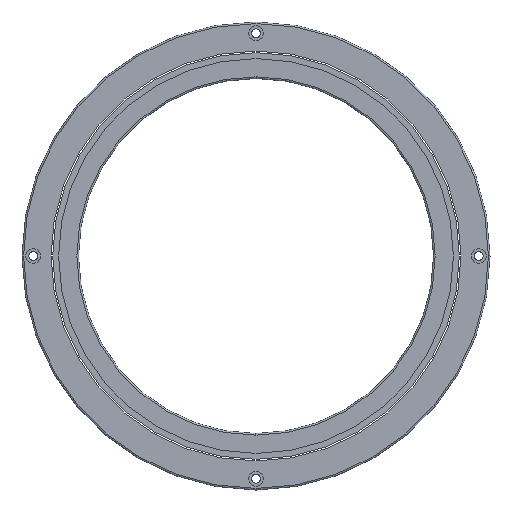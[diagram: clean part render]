
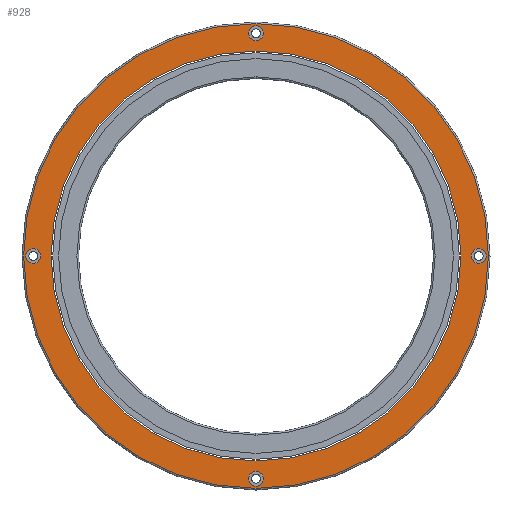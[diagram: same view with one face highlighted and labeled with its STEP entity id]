
A CAD part, front view. The second image highlights one B-rep face of the part: STEP entity #928.
In plain terms, the highlighted planar face has unit normal (0, -1, 0).
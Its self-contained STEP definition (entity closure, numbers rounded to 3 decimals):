
#43=CARTESIAN_POINT('',(0.,0.,0.));
#44=DIRECTION('',(0.,-1.,0.));
#45=DIRECTION('',(-1.,0.,0.));
#46=AXIS2_PLACEMENT_3D('',#43,#44,#45);
#48=CARTESIAN_POINT('',(0.,0.,0.));
#49=DIRECTION('',(0.,1.,0.));
#50=DIRECTION('',(-1.,0.,0.));
#51=AXIS2_PLACEMENT_3D('',#48,#49,#50);
#53=CARTESIAN_POINT('',(-69.,0.,0.));
#54=DIRECTION('',(0.,1.,0.));
#55=DIRECTION('',(1.,0.,0.));
#56=AXIS2_PLACEMENT_3D('',#53,#54,#55);
#58=CARTESIAN_POINT('',(-69.,0.,0.));
#59=DIRECTION('',(0.,1.,0.));
#60=DIRECTION('',(-1.,0.,0.));
#61=AXIS2_PLACEMENT_3D('',#58,#59,#60);
#63=CARTESIAN_POINT('',(0.,0.,69.));
#64=DIRECTION('',(0.,1.,0.));
#65=DIRECTION('',(0.,0.,-1.));
#66=AXIS2_PLACEMENT_3D('',#63,#64,#65);
#68=CARTESIAN_POINT('',(0.,0.,69.));
#69=DIRECTION('',(0.,1.,0.));
#70=DIRECTION('',(0.,0.,1.));
#71=AXIS2_PLACEMENT_3D('',#68,#69,#70);
#73=CARTESIAN_POINT('',(69.,0.,0.));
#74=DIRECTION('',(0.,1.,0.));
#75=DIRECTION('',(-1.,0.,0.));
#76=AXIS2_PLACEMENT_3D('',#73,#74,#75);
#78=CARTESIAN_POINT('',(69.,0.,0.));
#79=DIRECTION('',(0.,1.,0.));
#80=DIRECTION('',(1.,0.,0.));
#81=AXIS2_PLACEMENT_3D('',#78,#79,#80);
#83=CARTESIAN_POINT('',(0.,0.,-69.));
#84=DIRECTION('',(0.,1.,0.));
#85=DIRECTION('',(0.,0.,1.));
#86=AXIS2_PLACEMENT_3D('',#83,#84,#85);
#88=CARTESIAN_POINT('',(0.,0.,-69.));
#89=DIRECTION('',(0.,1.,0.));
#90=DIRECTION('',(0.,0.,-1.));
#91=AXIS2_PLACEMENT_3D('',#88,#89,#90);
#93=CARTESIAN_POINT('',(0.,0.,0.));
#94=DIRECTION('',(0.,1.,0.));
#95=DIRECTION('',(-1.,0.,0.));
#96=AXIS2_PLACEMENT_3D('',#93,#94,#95);
#98=CARTESIAN_POINT('',(0.,0.,0.));
#99=DIRECTION('',(0.,1.,0.));
#100=DIRECTION('',(1.,0.,0.));
#101=AXIS2_PLACEMENT_3D('',#98,#99,#100);
#751=CARTESIAN_POINT('',(-66.7,0.,0.));
#752=VERTEX_POINT('',#751);
#753=CARTESIAN_POINT('',(-71.3,0.,0.));
#754=VERTEX_POINT('',#753);
#763=CARTESIAN_POINT('',(0.,0.,66.7));
#764=VERTEX_POINT('',#763);
#765=CARTESIAN_POINT('',(0.,0.,71.3));
#766=VERTEX_POINT('',#765);
#775=CARTESIAN_POINT('',(66.7,0.,0.));
#776=VERTEX_POINT('',#775);
#777=CARTESIAN_POINT('',(71.3,0.,0.));
#778=VERTEX_POINT('',#777);
#787=CARTESIAN_POINT('',(0.,0.,-66.7));
#788=VERTEX_POINT('',#787);
#789=CARTESIAN_POINT('',(0.,0.,-71.3));
#790=VERTEX_POINT('',#789);
#808=CARTESIAN_POINT('',(-63.5,0.,0.));
#810=VERTEX_POINT('',#808);
#812=CARTESIAN_POINT('',(63.5,0.,0.));
#814=VERTEX_POINT('',#812);
#827=CARTESIAN_POINT('',(-72.,0.,0.));
#828=CARTESIAN_POINT('',(72.,0.,0.));
#829=VERTEX_POINT('',#827);
#830=VERTEX_POINT('',#828);
#889=CARTESIAN_POINT('',(0.,0.,0.));
#890=DIRECTION('',(0.,1.,0.));
#891=DIRECTION('',(1.,0.,0.));
#892=AXIS2_PLACEMENT_3D('',#889,#890,#891);
#893=PLANE('',#892);
#895=ORIENTED_EDGE('',*,*,#894,.T.);
#897=ORIENTED_EDGE('',*,*,#896,.T.);
#898=EDGE_LOOP('',(#895,#897));
#899=FACE_OUTER_BOUND('',#898,.F.);
#900=ORIENTED_EDGE('',*,*,#868,.F.);
#901=ORIENTED_EDGE('',*,*,#884,.F.);
#902=EDGE_LOOP('',(#900,#901));
#903=FACE_BOUND('',#902,.F.);
#905=ORIENTED_EDGE('',*,*,#904,.F.);
#907=ORIENTED_EDGE('',*,*,#906,.F.);
#908=EDGE_LOOP('',(#905,#907));
#909=FACE_BOUND('',#908,.F.);
#911=ORIENTED_EDGE('',*,*,#910,.F.);
#913=ORIENTED_EDGE('',*,*,#912,.F.);
#914=EDGE_LOOP('',(#911,#913));
#915=FACE_BOUND('',#914,.F.);
#917=ORIENTED_EDGE('',*,*,#916,.F.);
#919=ORIENTED_EDGE('',*,*,#918,.F.);
#920=EDGE_LOOP('',(#917,#919));
#921=FACE_BOUND('',#920,.F.);
#923=ORIENTED_EDGE('',*,*,#922,.T.);
#925=ORIENTED_EDGE('',*,*,#924,.F.);
#926=EDGE_LOOP('',(#923,#925));
#927=FACE_BOUND('',#926,.F.);
#47=CIRCLE('',#46,63.5);
#52=CIRCLE('',#51,63.5);
#57=CIRCLE('',#56,2.3);
#62=CIRCLE('',#61,2.3);
#67=CIRCLE('',#66,2.3);
#72=CIRCLE('',#71,2.3);
#77=CIRCLE('',#76,2.3);
#82=CIRCLE('',#81,2.3);
#87=CIRCLE('',#86,2.3);
#92=CIRCLE('',#91,2.3);
#97=CIRCLE('',#96,72.);
#102=CIRCLE('',#101,72.);
#868=EDGE_CURVE('',#752,#754,#57,.T.);
#884=EDGE_CURVE('',#754,#752,#62,.T.);
#894=EDGE_CURVE('',#829,#830,#97,.T.);
#896=EDGE_CURVE('',#830,#829,#102,.T.);
#904=EDGE_CURVE('',#764,#766,#67,.T.);
#906=EDGE_CURVE('',#766,#764,#72,.T.);
#910=EDGE_CURVE('',#776,#778,#77,.T.);
#912=EDGE_CURVE('',#778,#776,#82,.T.);
#916=EDGE_CURVE('',#788,#790,#87,.T.);
#918=EDGE_CURVE('',#790,#788,#92,.T.);
#922=EDGE_CURVE('',#810,#814,#47,.T.);
#924=EDGE_CURVE('',#810,#814,#52,.T.);
#928=ADVANCED_FACE('',(#899,#903,#909,#915,#921,#927),#893,.F.);
